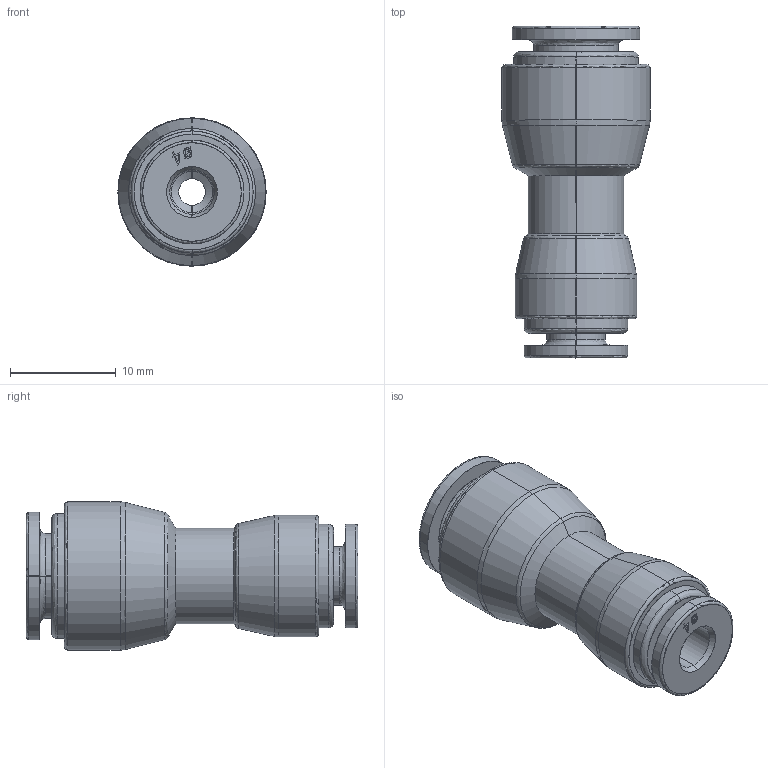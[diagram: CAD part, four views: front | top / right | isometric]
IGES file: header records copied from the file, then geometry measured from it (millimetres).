
Start section: SolidWorks IGES file using analytic representation for surfaces
Global section: file name: K:\Disegni Esecutivi\SERIE 53000\53000 Assiemi\53040\Iges\5304000009A.IGS; native system: SolidWorks 2020; preprocessor: SolidWorks 2020; author: cad06; date: 241021.083546; units: millimetre
Bounding box: 14 x 31.32 x 14 mm (x, y, z)
Surface area: 2053.9 mm2 (no closed solid volume)
Topology: 0 solids, 0 shells, 159 faces, 1637 edges, 1637 vertices
Faces by surface type: bspline 119, revolution 40
